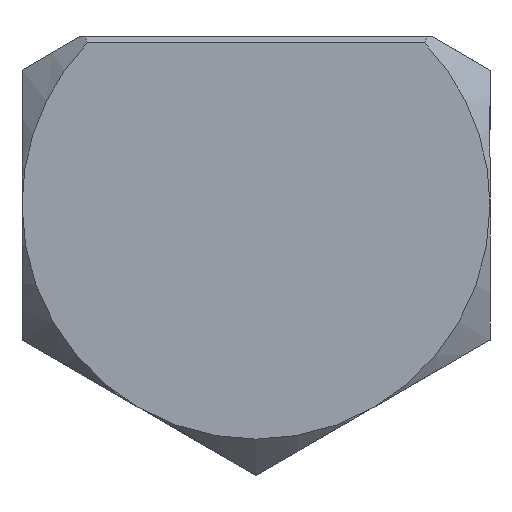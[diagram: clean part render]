
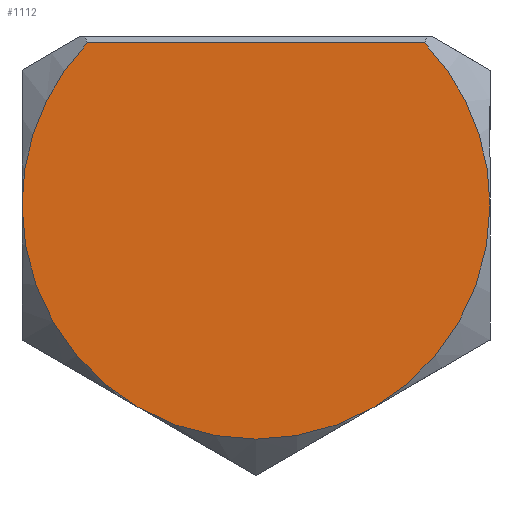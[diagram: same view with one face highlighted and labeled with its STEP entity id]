
A CAD part, front view. The second image highlights one B-rep face of the part: STEP entity #1112.
In plain terms, the highlighted planar face has unit normal (0, -1, 0).
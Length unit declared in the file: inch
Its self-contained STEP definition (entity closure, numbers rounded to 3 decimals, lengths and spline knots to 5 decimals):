
#78=PLANE('',#1254);
#168=FACE_OUTER_BOUND('',#235,.T.);
#235=EDGE_LOOP('',(#943,#944,#945,#946,#947,#948));
#292=LINE('',#2080,#339);
#339=VECTOR('',#1463,0.3937);
#389=CIRCLE('',#1231,0.75);
#394=CIRCLE('',#1247,0.75);
#395=CIRCLE('',#1249,0.75);
#396=CIRCLE('',#1251,0.75);
#397=CIRCLE('',#1253,0.75);
#504=VERTEX_POINT('',#2077);
#505=VERTEX_POINT('',#2079);
#508=VERTEX_POINT('',#2090);
#510=VERTEX_POINT('',#2102);
#514=VERTEX_POINT('',#2121);
#517=VERTEX_POINT('',#2133);
#640=EDGE_CURVE('',#504,#505,#292,.T.);
#646=EDGE_CURVE('',#508,#504,#389,.T.);
#667=EDGE_CURVE('',#505,#517,#394,.T.);
#668=EDGE_CURVE('',#517,#514,#395,.T.);
#669=EDGE_CURVE('',#514,#510,#396,.T.);
#670=EDGE_CURVE('',#510,#508,#397,.T.);
#943=ORIENTED_EDGE('',*,*,#640,.F.);
#944=ORIENTED_EDGE('',*,*,#646,.F.);
#945=ORIENTED_EDGE('',*,*,#670,.F.);
#946=ORIENTED_EDGE('',*,*,#669,.F.);
#947=ORIENTED_EDGE('',*,*,#668,.F.);
#948=ORIENTED_EDGE('',*,*,#667,.F.);
#1112=ADVANCED_FACE('',(#168),#78,.T.);
#1231=AXIS2_PLACEMENT_3D('',#2094,#1471,#1472);
#1247=AXIS2_PLACEMENT_3D('',#2152,#1511,#1512);
#1249=AXIS2_PLACEMENT_3D('',#2154,#1515,#1516);
#1251=AXIS2_PLACEMENT_3D('',#2156,#1519,#1520);
#1253=AXIS2_PLACEMENT_3D('',#2158,#1523,#1524);
#1254=AXIS2_PLACEMENT_3D('',#2159,#1525,#1526);
#1463=DIRECTION('',(1.,0.,0.));
#1471=DIRECTION('center_axis',(0.,1.,0.));
#1472=DIRECTION('ref_axis',(0.,0.,1.));
#1511=DIRECTION('center_axis',(0.,1.,0.));
#1512=DIRECTION('ref_axis',(0.,0.,1.));
#1515=DIRECTION('center_axis',(0.,1.,0.));
#1516=DIRECTION('ref_axis',(0.,0.,1.));
#1519=DIRECTION('center_axis',(0.,1.,0.));
#1520=DIRECTION('ref_axis',(0.,0.,1.));
#1523=DIRECTION('center_axis',(0.,1.,0.));
#1524=DIRECTION('ref_axis',(0.,0.,1.));
#1525=DIRECTION('center_axis',(0.,-1.,0.));
#1526=DIRECTION('ref_axis',(0.,0.,-1.));
#2077=CARTESIAN_POINT('',(-0.54046,0.,0.52));
#2079=CARTESIAN_POINT('',(0.54046,0.,0.52));
#2080=CARTESIAN_POINT('',(0.28235,0.,0.52));
#2090=CARTESIAN_POINT('',(-0.75,0.,0.));
#2094=CARTESIAN_POINT('Origin',(0.,0.,0.));
#2102=CARTESIAN_POINT('',(-0.375,0.,-0.64952));
#2121=CARTESIAN_POINT('',(0.375,0.,-0.64952));
#2133=CARTESIAN_POINT('',(0.75,0.,0.));
#2152=CARTESIAN_POINT('Origin',(0.,0.,0.));
#2154=CARTESIAN_POINT('Origin',(0.,0.,0.));
#2156=CARTESIAN_POINT('Origin',(0.,0.,0.));
#2158=CARTESIAN_POINT('Origin',(0.,0.,0.));
#2159=CARTESIAN_POINT('Origin',(0.,0.,0.));
